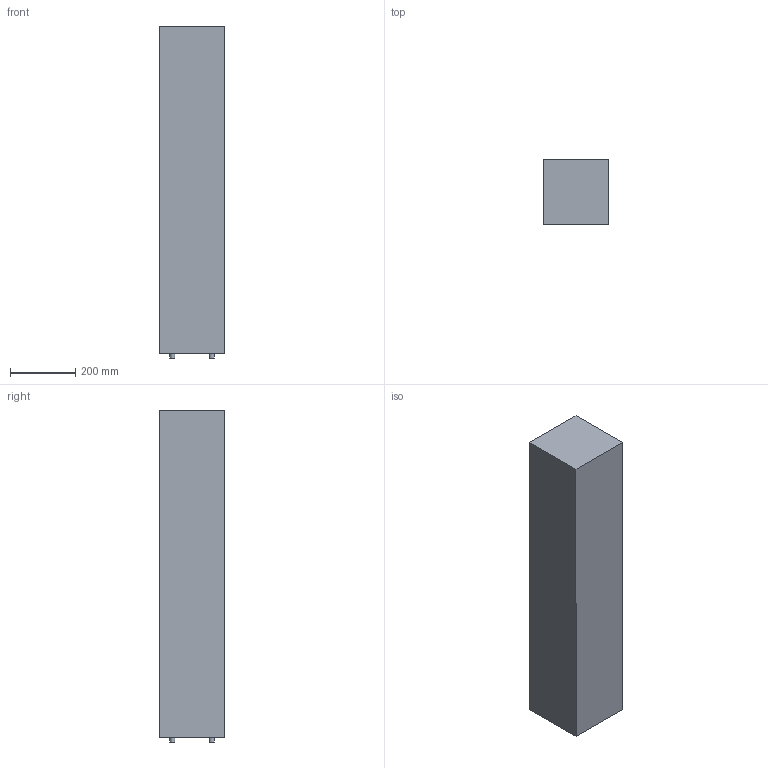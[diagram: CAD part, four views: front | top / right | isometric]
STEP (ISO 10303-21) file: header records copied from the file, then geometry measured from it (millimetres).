
FILE_DESCRIPTION(/* description */ (''),/* implementation_level */ '2;1');
FILE_NAME(/* name */ 'C:/Users/LukasGröber/GMS Cloud/Groeber Mannheim Lichtwerke - Dokumente/Marketing/Produkte/3D Daten/Lichtsäule Eifel im Herbst/Lichtsäule Eifle im Herbst 100.step',/* time_stamp */ '2022-07-06T16:11:50+02:00',/* author */ (''),/* organization */ (''),/* preprocessor_version */ 'ST-DEVELOPER v19',/* originating_system */ 'Autodesk Translation Framework v11.7.0.108',/* authorisation */ '');
FILE_SCHEMA (('AUTOMOTIVE_DESIGN { 1 0 10303 214 3 1 1 }'));
Length unit declared in the file: millimetre
Products named in the file (1): Lichtsäule Eifle im Herbst 100
Bounding box: 200 x 200 x 1015 mm (x, y, z)
Volume: 40010602.9 mm3; surface area: 882827.4 mm2
Topology: 1 solids, 1 shells, 14 faces, 24 edges, 16 vertices
Faces by surface type: plane 10, cylinder 4
Full cylindrical faces by diameter (mm): 15 x4
Entity records: 392 total; most frequent: DIRECTION 62, CARTESIAN_POINT 55, ORIENTED_EDGE 48, EDGE_CURVE 24, AXIS2_PLACEMENT_3D 23, EDGE_LOOP 18, LINE 16, VECTOR 16
